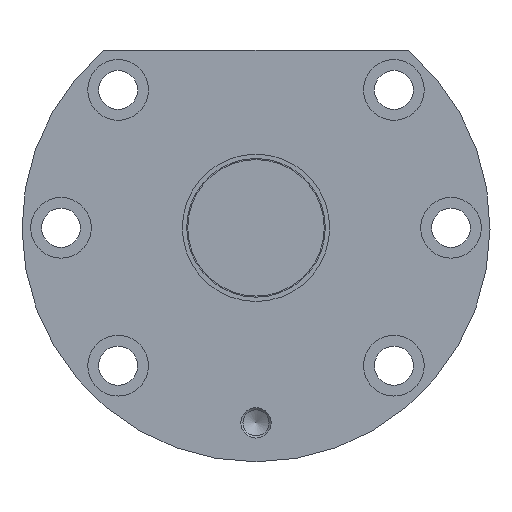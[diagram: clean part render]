
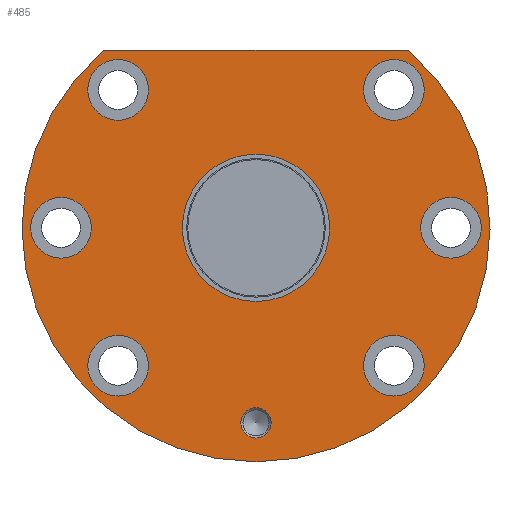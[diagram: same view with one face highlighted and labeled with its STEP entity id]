
A CAD part, left-side view. The second image highlights one B-rep face of the part: STEP entity #485.
In plain terms, the highlighted planar face has unit normal (-1, 0, 0).
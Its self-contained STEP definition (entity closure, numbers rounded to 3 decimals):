
#349=CARTESIAN_POINT('',(1029.357,3.5,-45.0));
#350=VERTEX_POINT('',#349);
#351=CARTESIAN_POINT('',(1029.357,0.,-45.0));
#352=DIRECTION('',(-1.0,0.0,0.0));
#353=DIRECTION('',(0.0,-1.0,0.0));
#354=AXIS2_PLACEMENT_3D('',#351,#352,#353);
#355=CIRCLE('',#354,3.5);
#356=EDGE_CURVE('',#350,#350,#355,.T.);
#381=CARTESIAN_POINT('',(1029.357,27.,0.0));
#382=DIRECTION('',(-1.0,0.0,0.0));
#383=DIRECTION('',(0.0,0.0,1.0));
#384=AXIS2_PLACEMENT_3D('',#381,#382,#383);
#385=PLANE('',#384);
#386=CARTESIAN_POINT('',(1029.357,35.143,41.));
#387=VERTEX_POINT('',#386);
#388=CARTESIAN_POINT('',(1029.357,-35.143,41.));
#389=VERTEX_POINT('',#388);
#390=CARTESIAN_POINT('',(1029.357,35.143,41.));
#391=DIRECTION('',(0.0,-1.0,0.0));
#392=VECTOR('',#391,70.285);
#393=LINE('',#390,#392);
#394=EDGE_CURVE('',#387,#389,#393,.T.);
#395=ORIENTED_EDGE('',*,*,#394,.F.);
#396=CARTESIAN_POINT('',(1029.357,0.,0.0));
#397=DIRECTION('',(1.0,0.0,0.0));
#398=DIRECTION('',(0.0,1.0,0.0));
#399=AXIS2_PLACEMENT_3D('',#396,#397,#398);
#400=CIRCLE('',#399,54.0);
#401=EDGE_CURVE('',#389,#387,#400,.T.);
#402=ORIENTED_EDGE('',*,*,#401,.F.);
#403=EDGE_LOOP('',(#395,#402));
#404=FACE_OUTER_BOUND('',#403,.T.);
#405=CARTESIAN_POINT('',(1029.357,17.,0.0));
#406=VERTEX_POINT('',#405);
#407=CARTESIAN_POINT('',(1029.357,0.,0.0));
#408=DIRECTION('',(1.0,0.0,0.0));
#409=DIRECTION('',(0.0,1.0,0.0));
#410=AXIS2_PLACEMENT_3D('',#407,#408,#409);
#411=CIRCLE('',#410,17.);
#412=EDGE_CURVE('',#406,#406,#411,.T.);
#413=ORIENTED_EDGE('',*,*,#412,.T.);
#414=EDGE_LOOP('',(#413));
#415=FACE_BOUND('',#414,.T.);
#416=CARTESIAN_POINT('',(1029.357,38.82,31.82));
#417=VERTEX_POINT('',#416);
#418=CARTESIAN_POINT('',(1029.357,31.82,31.82));
#419=DIRECTION('',(1.0,0.0,0.0));
#420=DIRECTION('',(0.0,1.0,0.0));
#421=AXIS2_PLACEMENT_3D('',#418,#419,#420);
#422=CIRCLE('',#421,7.);
#423=EDGE_CURVE('',#417,#417,#422,.T.);
#424=ORIENTED_EDGE('',*,*,#423,.T.);
#425=EDGE_LOOP('',(#424));
#426=FACE_BOUND('',#425,.T.);
#427=CARTESIAN_POINT('',(1029.357,38.82,-31.82));
#428=VERTEX_POINT('',#427);
#429=CARTESIAN_POINT('',(1029.357,31.82,-31.82));
#430=DIRECTION('',(1.0,0.0,0.0));
#431=DIRECTION('',(0.0,1.0,0.0));
#432=AXIS2_PLACEMENT_3D('',#429,#430,#431);
#433=CIRCLE('',#432,7.);
#434=EDGE_CURVE('',#428,#428,#433,.T.);
#435=ORIENTED_EDGE('',*,*,#434,.T.);
#436=EDGE_LOOP('',(#435));
#437=FACE_BOUND('',#436,.T.);
#438=CARTESIAN_POINT('',(1029.357,-38.0,0.0));
#439=VERTEX_POINT('',#438);
#440=CARTESIAN_POINT('',(1029.357,-45.0,0.0));
#441=DIRECTION('',(1.0,0.0,0.0));
#442=DIRECTION('',(0.0,1.0,0.0));
#443=AXIS2_PLACEMENT_3D('',#440,#441,#442);
#444=CIRCLE('',#443,7.);
#445=EDGE_CURVE('',#439,#439,#444,.T.);
#446=ORIENTED_EDGE('',*,*,#445,.T.);
#447=EDGE_LOOP('',(#446));
#448=FACE_BOUND('',#447,.T.);
#449=CARTESIAN_POINT('',(1029.357,-24.82,31.82));
#450=VERTEX_POINT('',#449);
#451=CARTESIAN_POINT('',(1029.357,-31.82,31.82));
#452=DIRECTION('',(1.0,0.0,0.0));
#453=DIRECTION('',(0.0,1.0,0.0));
#454=AXIS2_PLACEMENT_3D('',#451,#452,#453);
#455=CIRCLE('',#454,7.);
#456=EDGE_CURVE('',#450,#450,#455,.T.);
#457=ORIENTED_EDGE('',*,*,#456,.T.);
#458=EDGE_LOOP('',(#457));
#459=FACE_BOUND('',#458,.T.);
#460=CARTESIAN_POINT('',(1029.357,-24.82,-31.82));
#461=VERTEX_POINT('',#460);
#462=CARTESIAN_POINT('',(1029.357,-31.82,-31.82));
#463=DIRECTION('',(1.0,0.0,0.0));
#464=DIRECTION('',(0.0,1.0,0.0));
#465=AXIS2_PLACEMENT_3D('',#462,#463,#464);
#466=CIRCLE('',#465,7.);
#467=EDGE_CURVE('',#461,#461,#466,.T.);
#468=ORIENTED_EDGE('',*,*,#467,.T.);
#469=EDGE_LOOP('',(#468));
#470=FACE_BOUND('',#469,.T.);
#471=CARTESIAN_POINT('',(1029.357,52.0,0.0));
#472=VERTEX_POINT('',#471);
#473=CARTESIAN_POINT('',(1029.357,45.0,0.0));
#474=DIRECTION('',(1.0,0.0,0.0));
#475=DIRECTION('',(0.0,1.0,0.0));
#476=AXIS2_PLACEMENT_3D('',#473,#474,#475);
#477=CIRCLE('',#476,7.);
#478=EDGE_CURVE('',#472,#472,#477,.T.);
#479=ORIENTED_EDGE('',*,*,#478,.T.);
#480=EDGE_LOOP('',(#479));
#481=FACE_BOUND('',#480,.T.);
#482=ORIENTED_EDGE('',*,*,#356,.F.);
#483=EDGE_LOOP('',(#482));
#484=FACE_BOUND('',#483,.T.);
#485=ADVANCED_FACE('',(#404,#415,#426,#437,#448,#459,#470,#481,#484),#385,.T.);
